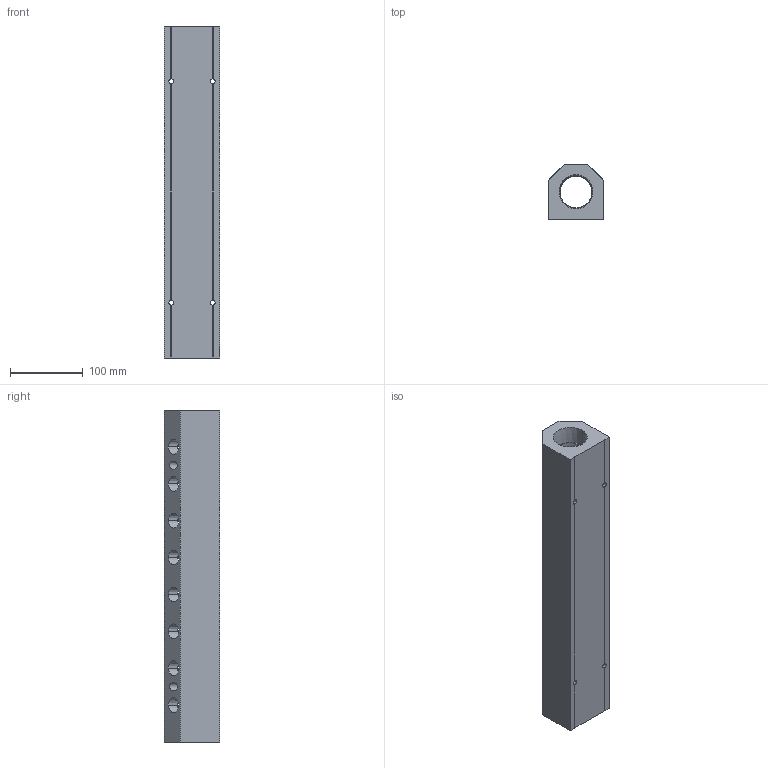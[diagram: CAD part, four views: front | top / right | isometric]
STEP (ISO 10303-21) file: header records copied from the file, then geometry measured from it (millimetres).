
FILE_DESCRIPTION (( 'STEP AP214' ), '1' );
FILE_NAME ('ALM8BCD-N8N24-457B.step', '2022-02-07T09:29:28', ( '' ), ( '' ), 'SwSTEP 2.0', 'SolidWorks 2020', '' );
FILE_SCHEMA (( 'AUTOMOTIVE_DESIGN' ));
Length unit declared in the file: millimetre
Products named in the file (1): ALM8BCD-N8N24-457B
Bounding box: 76.2 x 76.2 x 457 mm (x, y, z)
Volume: 1577963.1 mm3; surface area: 214784.8 mm2
Topology: 1 solids, 1 shells, 371 faces, 1033 edges, 686 vertices
Faces by surface type: plane 217, bspline 84, cone 52, cylinder 18
Entity records: 22659 total; most frequent: CARTESIAN_POINT 10223, ORIENTED_EDGE 2066, DIRECTION 1413, EDGE_CURVE 1033, VERTEX_POINT 686, LINE 669, VECTOR 669, EDGE_LOOP 451
